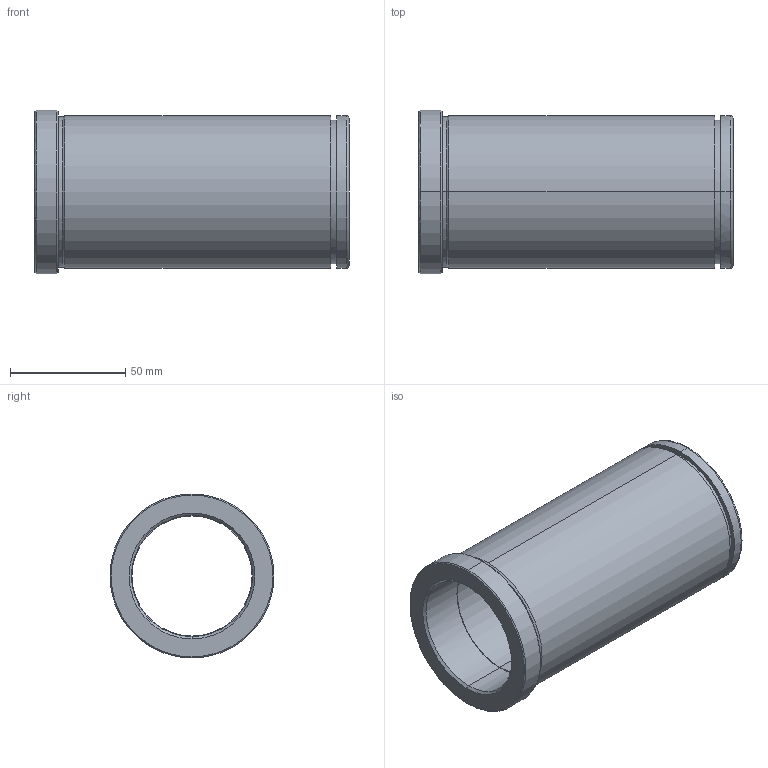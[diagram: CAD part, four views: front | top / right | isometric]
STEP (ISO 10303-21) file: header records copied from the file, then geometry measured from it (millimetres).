
FILE_DESCRIPTION(('CATIA V5 STEP Exchange'),'2;1');
FILE_NAME('C:\Users\Utente\Desktop\IO LAVORO\3D X SITO CF\X SITO\PLASTICA\553\553-52X136.stp','2021-06-08T18:01:03+00:00',('none'),('none'),'CATIA Version 5 Release 20 GA (IN-10)','CATIA V5 STEP AP203','none');
FILE_SCHEMA(('CONFIG_CONTROL_DESIGN'));
Length unit declared in the file: millimetre
Products named in the file (1): 553-52X136
Bounding box: 136 x 71 x 71 mm (x, y, z)
Volume: 179273.9 mm3; surface area: 54662.9 mm2
Topology: 1 solids, 1 shells, 32 faces, 102 edges, 76 vertices
Faces by surface type: cylinder 14, cone 8, plane 6, torus 4
Entity records: 1340 total; most frequent: CARTESIAN_POINT 395, ORIENTED_EDGE 204, DIRECTION 152, EDGE_CURVE 102, AXIS2_PLACEMENT_3D 99, VERTEX_POINT 76, CIRCLE 66, EDGE_LOOP 38
